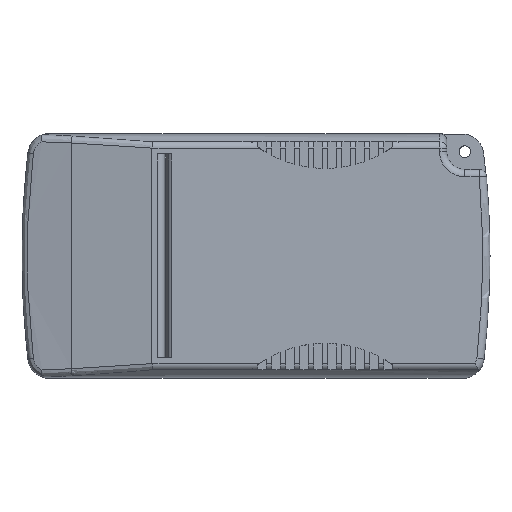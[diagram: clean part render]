
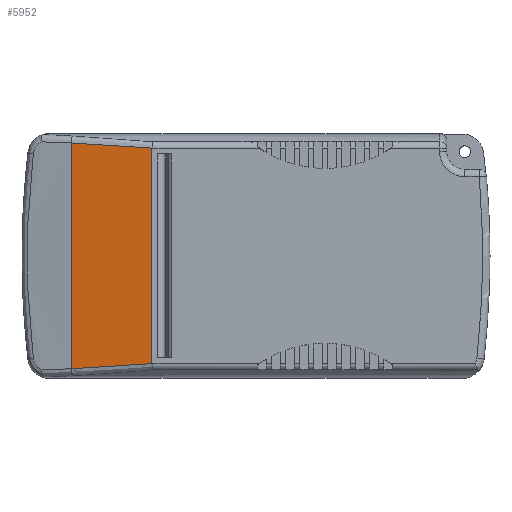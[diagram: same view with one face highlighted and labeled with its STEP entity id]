
A CAD part, top view. The second image highlights one B-rep face of the part: STEP entity #5952.
In plain terms, the highlighted planar face has unit normal (-0.139, 0, 0.99).
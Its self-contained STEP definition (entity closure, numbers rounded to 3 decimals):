
#883=CARTESIAN_POINT('',(-86.892,-58.941,28.));
#947=CARTESIAN_POINT('',(-86.892,-58.941,28.));
#948=CARTESIAN_POINT('',(-90.62,-59.274,27.476));
#949=CARTESIAN_POINT('',(-98.085,-59.828,26.427));
#950=CARTESIAN_POINT('',(-105.562,-60.204,25.376));
#951=CARTESIAN_POINT('',(-109.302,-60.354,24.851));
#956=CARTESIAN_POINT('',(-109.302,2.354,24.851));
#957=CARTESIAN_POINT('',(-105.562,2.204,25.376));
#958=CARTESIAN_POINT('',(-98.085,1.828,26.427));
#959=CARTESIAN_POINT('',(-90.62,1.274,27.476));
#960=CARTESIAN_POINT('',(-86.892,0.941,28.));
#965=DIRECTION('',(0.,-1.,0.));
#966=VECTOR('',#965,59.881);
#967=CARTESIAN_POINT('',(-86.892,0.941,28.));
#968=LINE('',#967,#966);
#2227=DIRECTION('',(0.,-1.,0.));
#2228=VECTOR('',#2227,62.708);
#2229=CARTESIAN_POINT('',(-109.302,2.354,24.851));
#2230=LINE('',#2229,#2228);
#4848=VERTEX_POINT('',#883);
#4849=CARTESIAN_POINT('',(-86.892,0.941,
28.));
#4850=VERTEX_POINT('',#4849);
#4881=VERTEX_POINT('',#956);
#4883=VERTEX_POINT('',#951);
#5939=CARTESIAN_POINT('',(-109.302,46.,24.851));
#5940=DIRECTION('',(0.139,0.,-0.99));
#5941=DIRECTION('',(0.99,0.,0.139));
#5942=AXIS2_PLACEMENT_3D('',#5939,#5940,#5941);
#5943=PLANE('',#5942);
#5945=ORIENTED_EDGE('',*,*,#5944,.T.);
#5947=ORIENTED_EDGE('',*,*,#5946,.F.);
#5948=ORIENTED_EDGE('',*,*,#5930,.T.);
#5949=ORIENTED_EDGE('',*,*,#5854,.T.);
#5950=EDGE_LOOP('',(#5945,#5947,#5948,#5949));
#5951=FACE_OUTER_BOUND('',#5950,.F.);
#952=B_SPLINE_CURVE_WITH_KNOTS('',3,(#947,#948,#949,#950,#951),.UNSPECIFIED.,
.F.,.F.,(4,1,4),(0.,0.5,1.),.UNSPECIFIED.);
#961=B_SPLINE_CURVE_WITH_KNOTS('',3,(#956,#957,#958,#959,#960),.UNSPECIFIED.,
.F.,.F.,(4,1,4),(0.,0.5,1.),.UNSPECIFIED.);
#5854=EDGE_CURVE('',#4850,#4848,#968,.T.);
#5930=EDGE_CURVE('',#4881,#4850,#961,.T.);
#5944=EDGE_CURVE('',#4848,#4883,#952,.T.);
#5946=EDGE_CURVE('',#4881,#4883,#2230,.T.);
#5952=ADVANCED_FACE('',(#5951),#5943,.F.);
